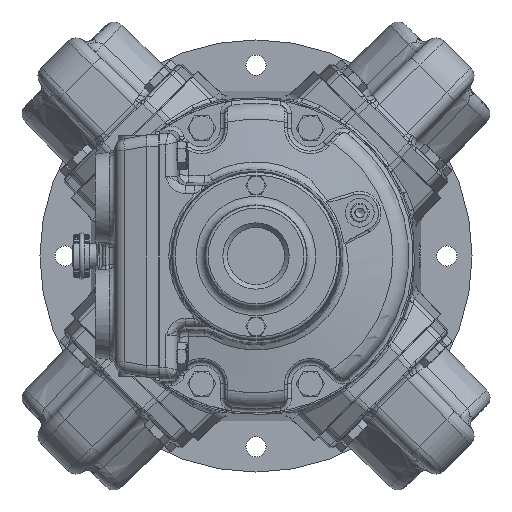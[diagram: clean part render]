
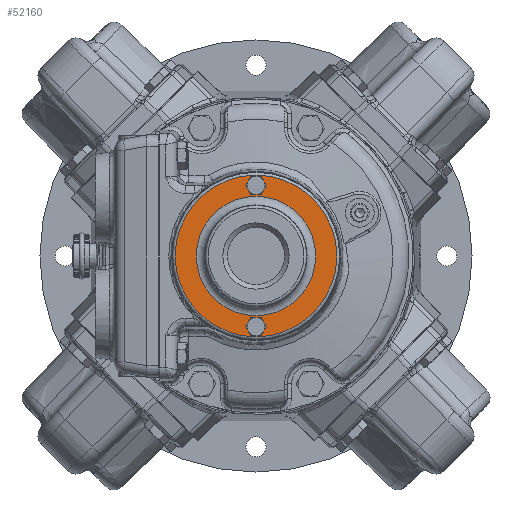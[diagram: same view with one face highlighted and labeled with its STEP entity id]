
A CAD part, left-side view. The second image highlights one B-rep face of the part: STEP entity #52160.
In plain terms, the highlighted planar face has unit normal (-1, 0, 0).
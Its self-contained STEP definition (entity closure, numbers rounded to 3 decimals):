
#1848 = AXIS2_PLACEMENT_3D ( 'NONE', #16862, #28887, #66519 ) ;
#2397 = EDGE_CURVE ( 'NONE', #64159, #64159, #36544, .T. ) ;
#3751 = CARTESIAN_POINT ( 'NONE',  ( -237.35, -6.227, -49. ) ) ;
#4967 = VERTEX_POINT ( 'NONE', #37229 ) ;
#5407 = CIRCLE ( 'NONE', #66154, 56.097 ) ;
#5581 = DIRECTION ( 'NONE',  ( 1., 0., 0. ) ) ;
#5651 = EDGE_LOOP ( 'NONE', ( #11333 ) ) ;
#9864 = DIRECTION ( 'NONE',  ( -1., 0., 0. ) ) ;
#9989 = DIRECTION ( 'NONE',  ( -1., 0., 0. ) ) ;
#11333 = ORIENTED_EDGE ( 'NONE', *, *, #18483, .F. ) ;
#16862 = CARTESIAN_POINT ( 'NONE',  ( -237.35, 0., 0. ) ) ;
#17376 = CARTESIAN_POINT ( 'NONE',  ( -237.35, 0., 41.417 ) ) ;
#17699 = FACE_BOUND ( 'NONE', #35059, .T. ) ;
#18125 = CIRCLE ( 'NONE', #35289, 41.417 ) ;
#18483 = EDGE_CURVE ( 'NONE', #66206, #66206, #80740, .T. ) ;
#28627 = CARTESIAN_POINT ( 'NONE',  ( -237.35, 0., -49. ) ) ;
#28887 = DIRECTION ( 'NONE',  ( -1., 0., 0. ) ) ;
#35059 = EDGE_LOOP ( 'NONE', ( #55839 ) ) ;
#35289 = AXIS2_PLACEMENT_3D ( 'NONE', #41296, #40476, #53301 ) ;
#36196 = CARTESIAN_POINT ( 'NONE',  ( -237.35, 0., 49. ) ) ;
#36544 = CIRCLE ( 'NONE', #52406, 6.227 ) ;
#37229 = CARTESIAN_POINT ( 'NONE',  ( -237.35, 0., 56.097 ) ) ;
#39867 = EDGE_CURVE ( 'NONE', #49228, #49228, #18125, .T. ) ;
#40476 = DIRECTION ( 'NONE',  ( 1., 0., 0. ) ) ;
#41296 = CARTESIAN_POINT ( 'NONE',  ( -237.35, 0., 0. ) ) ;
#41299 = FACE_OUTER_BOUND ( 'NONE', #65518, .T. ) ;
#42306 = ORIENTED_EDGE ( 'NONE', *, *, #53599, .T. ) ;
#47508 = FACE_BOUND ( 'NONE', #48685, .T. ) ;
#48685 = EDGE_LOOP ( 'NONE', ( #60731 ) ) ;
#48712 = PLANE ( 'NONE',  #1848 ) ;
#49128 = FACE_BOUND ( 'NONE', #5651, .T. ) ;
#49228 = VERTEX_POINT ( 'NONE', #17376 ) ;
#52160 = ADVANCED_FACE ( 'NONE', ( #49128, #17699, #41299, #47508 ), #48712, .T. ) ;
#52170 = CARTESIAN_POINT ( 'NONE',  ( -237.35, -6.227, 49. ) ) ;
#52406 = AXIS2_PLACEMENT_3D ( 'NONE', #36196, #5581, #80794 ) ;
#53301 = DIRECTION ( 'NONE',  ( 0., 0., 1. ) ) ;
#53326 = CARTESIAN_POINT ( 'NONE',  ( -237.35, 0., 0. ) ) ;
#53599 = EDGE_CURVE ( 'NONE', #4967, #4967, #5407, .T. ) ;
#55839 = ORIENTED_EDGE ( 'NONE', *, *, #2397, .T. ) ;
#60348 = DIRECTION ( 'NONE',  ( 0., 0., 1. ) ) ;
#60731 = ORIENTED_EDGE ( 'NONE', *, *, #39867, .T. ) ;
#63592 = AXIS2_PLACEMENT_3D ( 'NONE', #28627, #9989, #72851 ) ;
#64159 = VERTEX_POINT ( 'NONE', #52170 ) ;
#65518 = EDGE_LOOP ( 'NONE', ( #42306 ) ) ;
#66154 = AXIS2_PLACEMENT_3D ( 'NONE', #53326, #9864, #60348 ) ;
#66206 = VERTEX_POINT ( 'NONE', #3751 ) ;
#66519 = DIRECTION ( 'NONE',  ( 0., 0., 1. ) ) ;
#72851 = DIRECTION ( 'NONE',  ( 0., -1., 0. ) ) ;
#80740 = CIRCLE ( 'NONE', #63592, 6.227 ) ;
#80794 = DIRECTION ( 'NONE',  ( 0., -1., 0. ) ) ;
